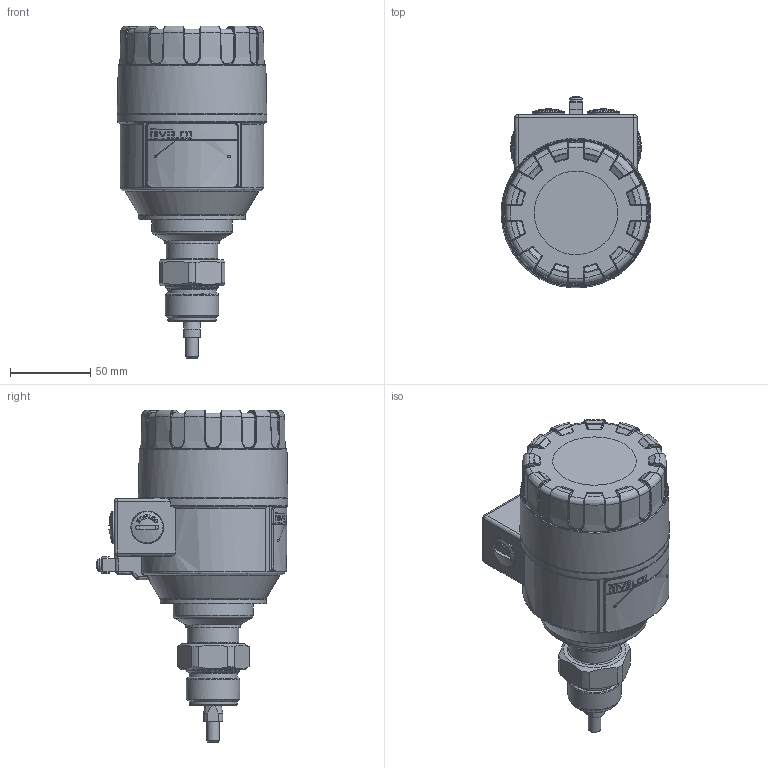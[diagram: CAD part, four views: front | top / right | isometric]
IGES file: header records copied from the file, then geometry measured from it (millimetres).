
Global section: file name: HT_Mű_1 col,; native system: Autodesk Inventor 2015; preprocessor: unknown; author: aantal; date: 20150306.111205; units: millimetre
Bounding box: 92.98 x 119.26 x 206.6 mm (x, y, z)
Volume: 939782.5 mm3; surface area: 97206.7 mm2
Topology: 12 solids, 12 shells, 1290 faces, 3200 edges, 1974 vertices
Faces by surface type: bspline 1290
